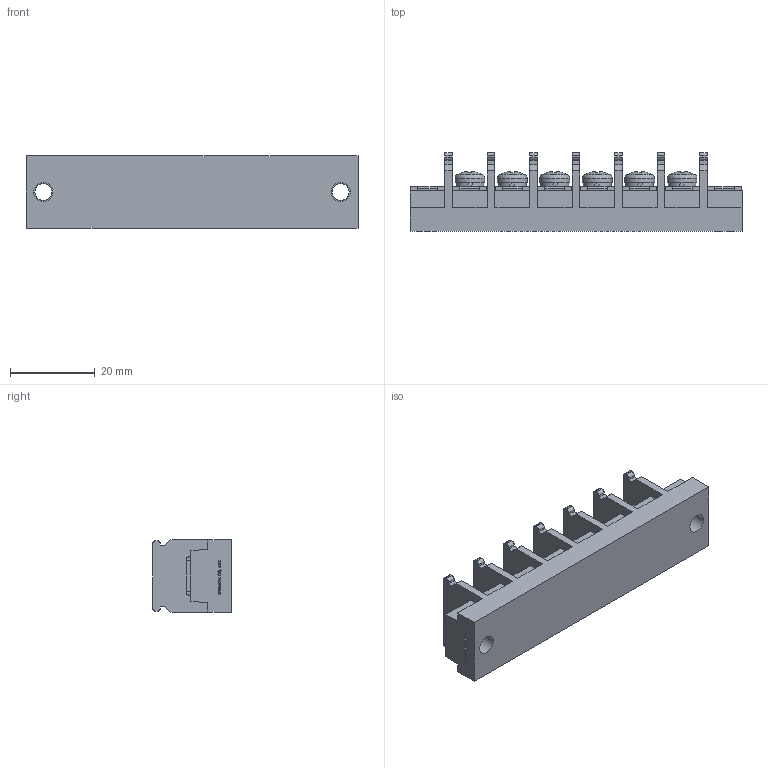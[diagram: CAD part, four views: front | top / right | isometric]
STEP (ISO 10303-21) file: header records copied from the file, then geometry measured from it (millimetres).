
FILE_DESCRIPTION(/* description */ ('Alibre Inc.'),/* implementation_level */ '2;1');
FILE_NAME(/* name */ 'export0',/* time_stamp */ '2015-10-14T19:50:57+09:00',/* author */ (''),/* organization */ (''),/* preprocessor_version */ 'ST-DEVELOPER v14',/* originating_system */ 'Alibre',/* authorisation */ '');
FILE_SCHEMA (('CONFIG_CONTROL_DESIGN'));
Length unit declared in the file: centimetre
Products named in the file (1): ID_1
Bounding box: 78.2 x 18.5 x 17 mm (x, y, z)
Volume: 14018.7 mm3; surface area: 8186.2 mm2
Topology: 1 solids, 17 shells, 816 faces, 2220 edges, 1474 vertices
Faces by surface type: plane 604, bspline 104, cylinder 66, cone 24, torus 12, sphere 6
Full cylindrical faces by diameter (mm): 4 x8, 4.5 x2, 6.5 x6, 7 x6
Entity records: 24922 total; most frequent: CARTESIAN_POINT 5568, ORIENTED_EDGE 4348, DIRECTION 3044, EDGE_CURVE 2174, VECTOR 1608, LINE 1608, VERTEX_POINT 1456, AXIS2_PLACEMENT_3D 1016
